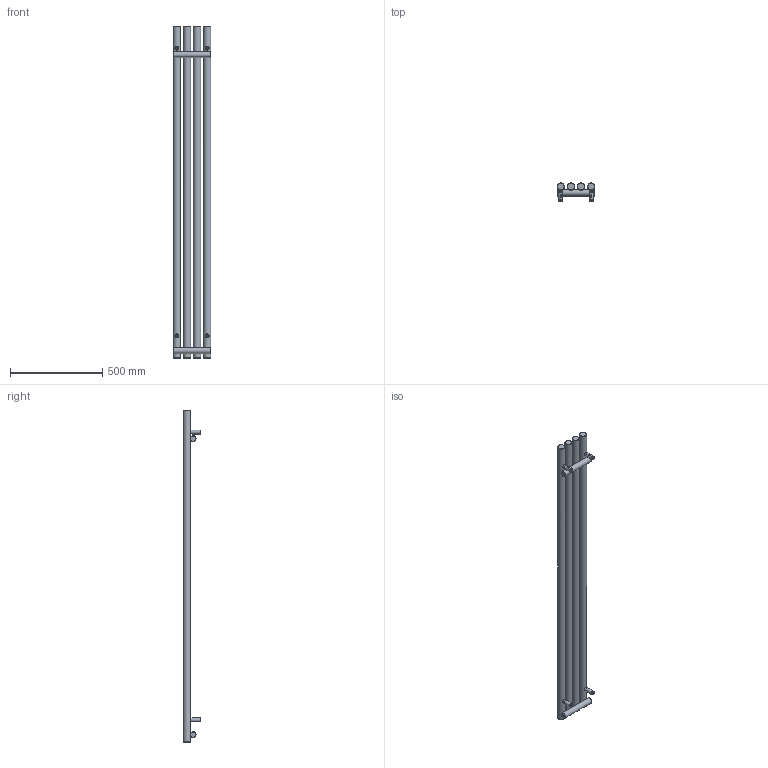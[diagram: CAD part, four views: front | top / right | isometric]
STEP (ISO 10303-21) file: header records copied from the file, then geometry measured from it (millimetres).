
FILE_DESCRIPTION(/* description */ (''),/* implementation_level */ '2;1');
FILE_NAME(/* name */ 'Z:\R\G\P\RGP116 - Grzejniki Geyser\Work\Inventor\Circolo (Rolo V, Rolo H)\ROLO-ROOM\Marketing\Bryły 3D\Zaokrąglone\WLROR180020-ES-CK-(Z).stp',/* time_stamp */ '2024-03-29T15:52:15+01:00',/* author */ ('NowAd'),/* organization */ (''),/* preprocessor_version */ 'ST-DEVELOPER v17.2',/* originating_system */ 'Autodesk Inventor 2019',/* authorisation */ '');
FILE_SCHEMA (('AUTOMOTIVE_DESIGN { 1 0 10303 214 3 1 1 }'));
Length unit declared in the file: millimetre
Products named in the file (3): WLROR180020-ES-CK-(Z); PGROR180020-ES-CK-(K); CK-V-fi40 marketing
Assembly tree (5 placements, depth 2):
  WLROR180020-ES-CK-(Z)
    PGROR180020-ES-CK-(K)
    CK-V-fi40 marketing  x4
Bounding box: 205 x 96.5 x 1800 mm (x, y, z)
Volume: 9419491.4 mm3; surface area: 986481.3 mm2
Topology: 5 solids, 5 shells, 310 faces, 784 edges, 524 vertices
Faces by surface type: plane 130, cylinder 72, cone 60, torus 40, bspline 8
Full cylindrical faces by diameter (mm): 4.134 x4, 4.48 x4, 6.4 x4, 10 x4, 12 x4, 15.834 x4, 16 x4, 18.631 x2, 22 x4, 32 x2, 40 x4
Entity records: 5972 total; most frequent: CARTESIAN_POINT 2889, DIRECTION 645, ORIENTED_EDGE 606, EDGE_CURVE 303, AXIS2_PLACEMENT_3D 286, VERTEX_POINT 206, EDGE_LOOP 161, CIRCLE 151
